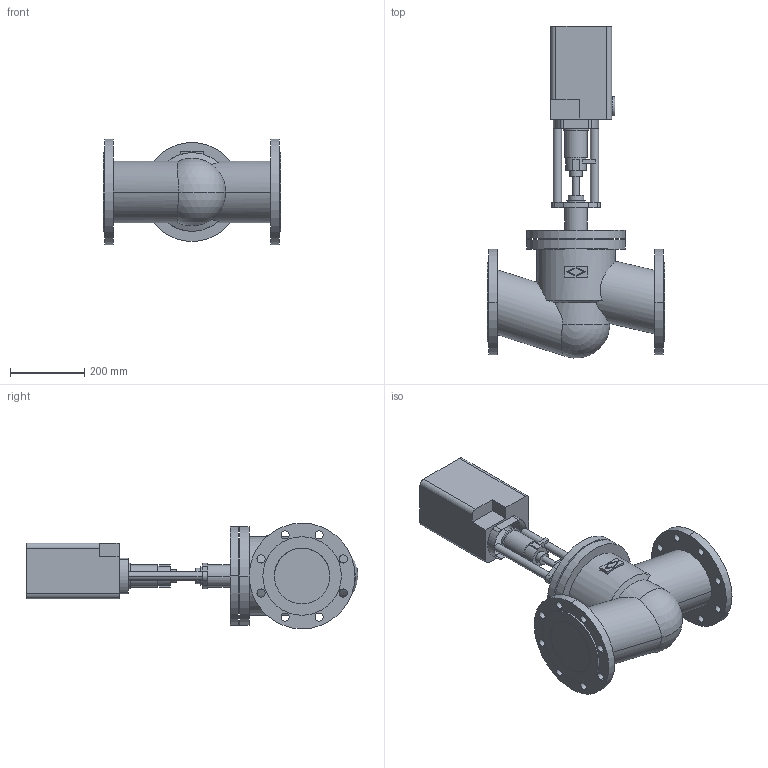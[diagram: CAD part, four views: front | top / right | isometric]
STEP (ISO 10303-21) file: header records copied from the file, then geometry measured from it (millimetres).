
FILE_DESCRIPTION(('OneSpaceDesigner STEP Export'),'2;1');
FILE_NAME('c000003120.stp','2007-01-16T10:33:21',(''),(''),'OneSpace Designer STEP processor for AP214 (Solid Model)','OneSpace Designer 14.00B 27-May-2006 (C) CoCreate Software GmbH','');
FILE_SCHEMA(('AUTOMOTIVE_DESIGN { 1 0 10303 214 1 1 1 1 }'));
Length unit declared in the file: millimetre
Products named in the file (2): 1; 2
Bounding box: 480 x 895.77 x 285 mm (x, y, z)
Volume: 26811807.9 mm3; surface area: 1020046 mm2
Topology: 2 solids, 2 shells, 172 faces, 431 edges, 284 vertices
Faces by surface type: cylinder 94, plane 72, cone 2, sphere 2, torus 2
Entity records: 4976 total; most frequent: CARTESIAN_POINT 1082, ORIENTED_EDGE 858, DIRECTION 714, EDGE_CURVE 429, VERTEX_POINT 284, AXIS2_PLACEMENT_3D 253, EDGE_LOOP 227, VECTOR 208
